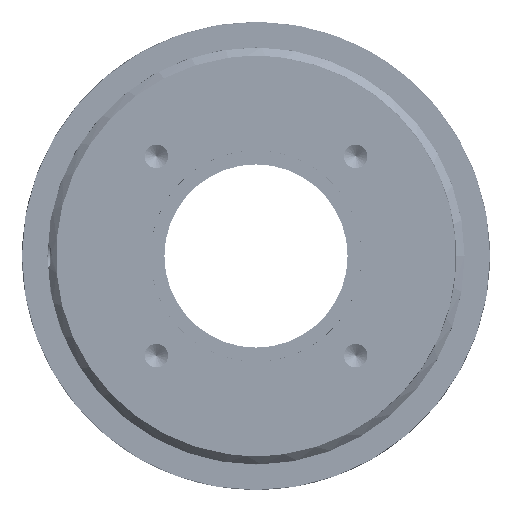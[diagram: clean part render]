
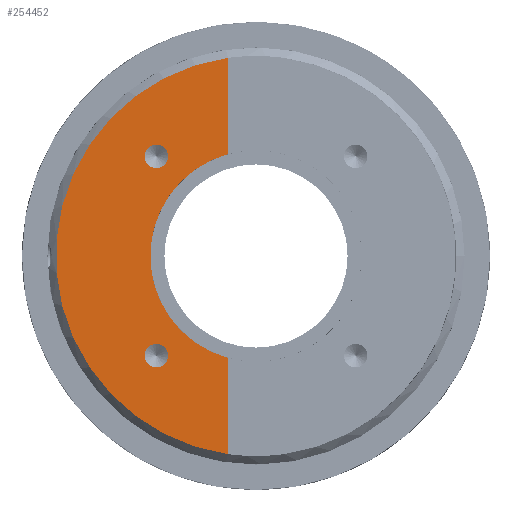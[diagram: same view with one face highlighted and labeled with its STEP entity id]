
A CAD part, left-side view. The second image highlights one B-rep face of the part: STEP entity #254452.
In plain terms, the highlighted planar face has unit normal (-1, 0, 0).
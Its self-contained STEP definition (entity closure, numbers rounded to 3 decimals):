
#388=FACE_BOUND('',#27553,.T.);
#389=FACE_BOUND('',#27554,.T.);
#2776=CIRCLE('',#268597,71.);
#2777=CIRCLE('',#268599,37.5);
#2778=CIRCLE('',#268600,4.188);
#2779=CIRCLE('',#268601,4.188);
#15654=FACE_OUTER_BOUND('',#27552,.T.);
#27552=EDGE_LOOP('',(#220277,#220278,#220279,#220280));
#27553=EDGE_LOOP('',(#220281));
#27554=EDGE_LOOP('',(#220282));
#60009=LINE('',#399907,#92415);
#60010=LINE('',#399909,#92416);
#92415=VECTOR('',#329151,10.);
#92416=VECTOR('',#329152,10.);
#115637=VERTEX_POINT('',#399897);
#115640=VERTEX_POINT('',#399902);
#115641=VERTEX_POINT('',#399906);
#115642=VERTEX_POINT('',#399908);
#115643=VERTEX_POINT('',#399911);
#115644=VERTEX_POINT('',#399913);
#150564=EDGE_CURVE('',#115640,#115637,#2776,.T.);
#150565=EDGE_CURVE('',#115641,#115637,#60009,.T.);
#150566=EDGE_CURVE('',#115640,#115642,#60010,.T.);
#150567=EDGE_CURVE('',#115642,#115641,#2777,.T.);
#150568=EDGE_CURVE('',#115643,#115643,#2778,.T.);
#150569=EDGE_CURVE('',#115644,#115644,#2779,.T.);
#220277=ORIENTED_EDGE('',*,*,#150565,.T.);
#220278=ORIENTED_EDGE('',*,*,#150564,.F.);
#220279=ORIENTED_EDGE('',*,*,#150566,.T.);
#220280=ORIENTED_EDGE('',*,*,#150567,.T.);
#220281=ORIENTED_EDGE('',*,*,#150568,.T.);
#220282=ORIENTED_EDGE('',*,*,#150569,.T.);
#231232=PLANE('',#268598);
#254452=ADVANCED_FACE('',(#15654,#388,#389),#231232,.T.);
#268597=AXIS2_PLACEMENT_3D('',#399904,#329147,#329148);
#268598=AXIS2_PLACEMENT_3D('',#399905,#329149,#329150);
#268599=AXIS2_PLACEMENT_3D('',#399910,#329153,#329154);
#268600=AXIS2_PLACEMENT_3D('',#399912,#329155,#329156);
#268601=AXIS2_PLACEMENT_3D('',#399914,#329157,#329158);
#329147=DIRECTION('center_axis',(1.,0.,0.));
#329148=DIRECTION('ref_axis',(0.,0.,
-1.));
#329149=DIRECTION('center_axis',(-1.,0.,0.));
#329150=DIRECTION('ref_axis',(0.,0.,
1.));
#329151=DIRECTION('',(0.,0.,1.));
#329152=DIRECTION('',(0.,0.,1.));
#329153=DIRECTION('center_axis',(1.,0.,0.));
#329154=DIRECTION('ref_axis',(0.,0.,
-1.));
#329155=DIRECTION('center_axis',(1.,0.,0.));
#329156=DIRECTION('ref_axis',(0.,0.,
1.));
#329157=DIRECTION('center_axis',(1.,0.,0.));
#329158=DIRECTION('ref_axis',(0.,0.,
1.));
#399897=CARTESIAN_POINT('',(-17.,10.,70.292));
#399902=CARTESIAN_POINT('',(-17.,10.,-70.292));
#399904=CARTESIAN_POINT('Origin',(-17.,0.,
0.));
#399905=CARTESIAN_POINT('Origin',(-17.,71.,0.));
#399906=CARTESIAN_POINT('',(-17.,10.,36.142));
#399907=CARTESIAN_POINT('',(-17.,10.,-42.5));
#399908=CARTESIAN_POINT('',(-17.,10.,-36.142));
#399909=CARTESIAN_POINT('',(-17.,10.,-42.5));
#399910=CARTESIAN_POINT('Origin',(-17.,0.,
0.));
#399911=CARTESIAN_POINT('',(-17.,35.355,31.167));
#399912=CARTESIAN_POINT('Origin',(-17.,35.355,35.355));
#399913=CARTESIAN_POINT('',(-17.,35.355,-39.543));
#399914=CARTESIAN_POINT('Origin',(-17.,35.355,-35.355));
